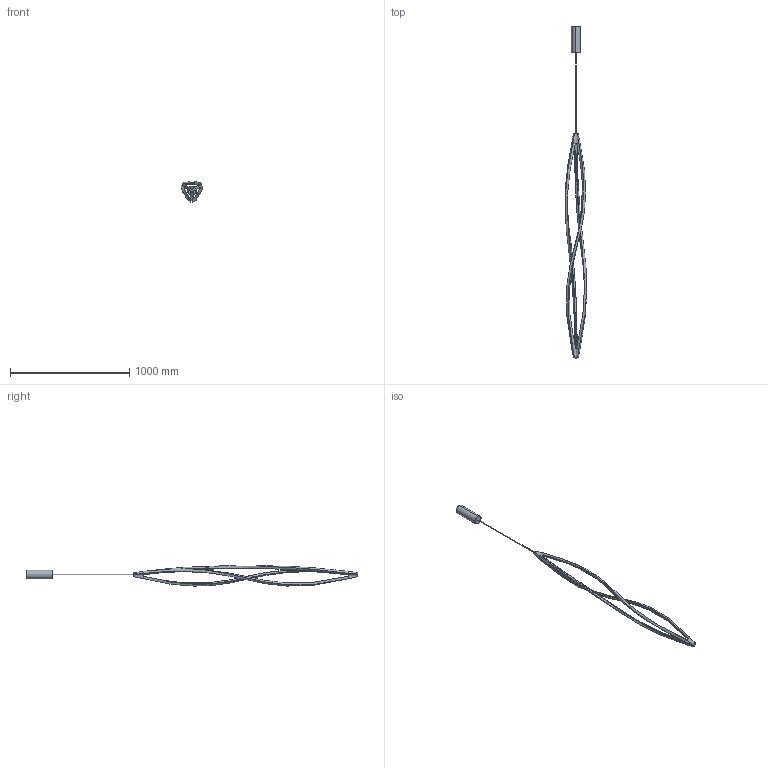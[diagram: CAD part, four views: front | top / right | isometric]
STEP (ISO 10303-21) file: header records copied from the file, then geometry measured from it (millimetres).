
FILE_DESCRIPTION (( 'STEP AP214' ), '1' );
FILE_NAME ('3D_IN_THE_WIND_V.STEP', '2018-02-23T15:53:35', ( 'Utente' ), ( '' ), 'SwSTEP 2.0', 'SolidWorks 2016', '' );
FILE_SCHEMA (( 'AUTOMOTIVE_DESIGN' ));
Length unit declared in the file: millimetre
Products named in the file (5): cavo-2^3D_IN_THE_WIND_V; Group4^3D_IN_THE_WIND_V; Group2^3D_IN_THE_WIND_V; Group1^3D_IN_THE_WIND_V; 3D_IN_THE_WIND_V
Assembly tree (4 placements, depth 2):
  3D_IN_THE_WIND_V
    Group1^3D_IN_THE_WIND_V
    Group2^3D_IN_THE_WIND_V
    Group4^3D_IN_THE_WIND_V
    cavo-2^3D_IN_THE_WIND_V
Bounding box: 180.52 x 2778.5 x 169.13 mm (x, y, z)
Volume: 2924661.7 mm3; surface area: 782182.7 mm2
Topology: 10 solids, 10 shells, 128 faces, 322 edges, 214 vertices
Faces by surface type: bspline 92, plane 30, cylinder 4, torus 2
Entity records: 8878 total; most frequent: CARTESIAN_POINT 6063, ORIENTED_EDGE 644, EDGE_CURVE 322, DIRECTION 294, VERTEX_POINT 214, LINE 184, VECTOR 184, ADVANCED_FACE 128
